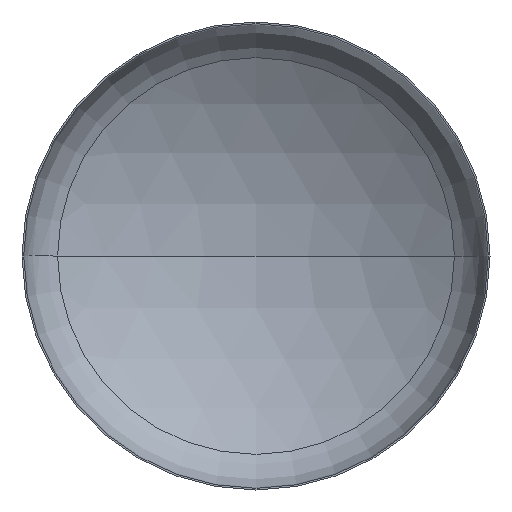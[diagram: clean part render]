
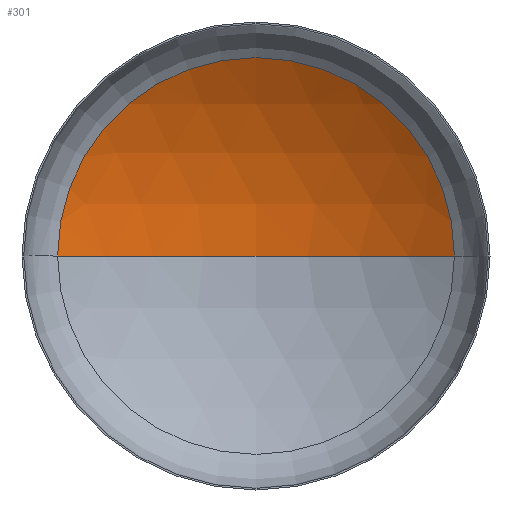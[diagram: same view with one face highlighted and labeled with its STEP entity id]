
A CAD part, front view. The second image highlights one B-rep face of the part: STEP entity #301.
In plain terms, the highlighted spherical face has radius 4800 mm.
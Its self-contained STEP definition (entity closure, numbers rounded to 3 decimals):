
#19 = ORIENTED_EDGE ( 'NONE', *, *, #295, .F. ) ;
#30 = DIRECTION ( 'NONE',  ( 0., 0., -1. ) ) ;
#35 = VERTEX_POINT ( 'NONE', #357 ) ;
#56 = CARTESIAN_POINT ( 'NONE',  ( 0., -3216.459, 0. ) ) ;
#61 = DIRECTION ( 'NONE',  ( 0., 0., 1. ) ) ;
#62 = DIRECTION ( 'NONE',  ( 1., 0., 0. ) ) ;
#75 = AXIS2_PLACEMENT_3D ( 'NONE', #56, #61, #62 ) ;
#92 = VERTEX_POINT ( 'NONE', #310 ) ;
#93 = DIRECTION ( 'NONE',  ( -1., 0., 0. ) ) ;
#108 = VERTEX_POINT ( 'NONE', #271 ) ;
#109 = EDGE_LOOP ( 'NONE', ( #19, #161, #117 ) ) ;
#117 = ORIENTED_EDGE ( 'NONE', *, *, #328, .T. ) ;
#118 = DIRECTION ( 'NONE',  ( 1., 0., 0. ) ) ;
#119 = CARTESIAN_POINT ( 'NONE',  ( 0., -3216.459, 0. ) ) ;
#122 = CIRCLE ( 'NONE', #75, 4800. ) ;
#145 = AXIS2_PLACEMENT_3D ( 'NONE', #366, #207, #384 ) ;
#161 = ORIENTED_EDGE ( 'NONE', *, *, #308, .T. ) ;
#167 = AXIS2_PLACEMENT_3D ( 'NONE', #119, #30, #93 ) ;
#178 = CARTESIAN_POINT ( 'NONE',  ( 0., 854.51, 0. ) ) ;
#189 = AXIS2_PLACEMENT_3D ( 'NONE', #178, #317, #118 ) ;
#207 = DIRECTION ( 'NONE',  ( 0., 0., -1. ) ) ;
#271 = CARTESIAN_POINT ( 'NONE',  ( 0., 1583.541, 0. ) ) ;
#274 = CIRCLE ( 'NONE', #145, 4800. ) ;
#295 = EDGE_CURVE ( 'NONE', #108, #92, #122, .T. ) ;
#301 = ADVANCED_FACE ( 'NONE', ( #351 ), #407, .F. ) ;
#308 = EDGE_CURVE ( 'NONE', #108, #35, #274, .T. ) ;
#310 = CARTESIAN_POINT ( 'NONE',  ( -2543.071, 854.51, 0. ) ) ;
#317 = DIRECTION ( 'NONE',  ( 0., -1., 0. ) ) ;
#328 = EDGE_CURVE ( 'NONE', #35, #92, #345, .T. ) ;
#345 = CIRCLE ( 'NONE', #189, 2543.071 ) ;
#351 = FACE_OUTER_BOUND ( 'NONE', #109, .T. ) ;
#357 = CARTESIAN_POINT ( 'NONE',  ( 2543.071, 854.51, 0. ) ) ;
#366 = CARTESIAN_POINT ( 'NONE',  ( 0., -3216.459, 0. ) ) ;
#384 = DIRECTION ( 'NONE',  ( -1., 0., 0. ) ) ;
#407 = SPHERICAL_SURFACE ( 'NONE', #167, 4800. ) ;
